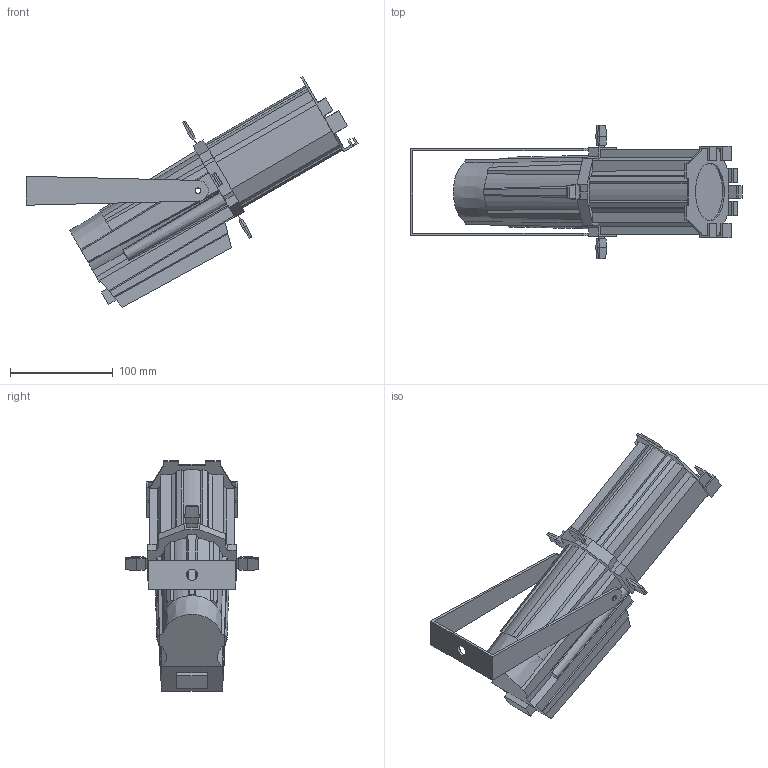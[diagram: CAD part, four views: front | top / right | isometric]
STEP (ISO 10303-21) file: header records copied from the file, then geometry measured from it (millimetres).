
FILE_DESCRIPTION(/* description */ (''),/* implementation_level */ '2;1');
FILE_NAME(/* name */ 'D:/dgooch/Documents/CADENG/PRO/Ovation ETD 40WW/30/Ovation ETD-40WW_30.step',/* time_stamp */ '2019-03-21T14:25:37-04:00',/* author */ ('dgooch'),/* organization */ (''),/* preprocessor_version */ 'ST-DEVELOPER v17.2',/* originating_system */ 'Autodesk Translation Framework v7.6.0.251',/* authorisation */ '');
FILE_SCHEMA (('AUTOMOTIVE_DESIGN { 1 0 10303 214 3 1 1 }'));
Length unit declared in the file: millimetre
Products named in the file (3): Ovation ETD40WW_V2; Bracket; Main
Assembly tree (2 placements, depth 2):
  Ovation ETD40WW_V2
    Bracket
    Main
Bounding box: 322.4 x 129.54 x 223.9 mm (x, y, z)
Volume: 1389315.7 mm3; surface area: 128554.7 mm2
Topology: 2 solids, 2 shells, 294 faces, 797 edges, 512 vertices
Faces by surface type: plane 243, bspline 42, cylinder 9
Full cylindrical faces by diameter (mm): 5.5 x3, 11 x1, 56 x1
Entity records: 12297 total; most frequent: CARTESIAN_POINT 5144, ORIENTED_EDGE 1594, DIRECTION 1233, EDGE_CURVE 797, LINE 649, VECTOR 649, VERTEX_POINT 512, EDGE_LOOP 307
